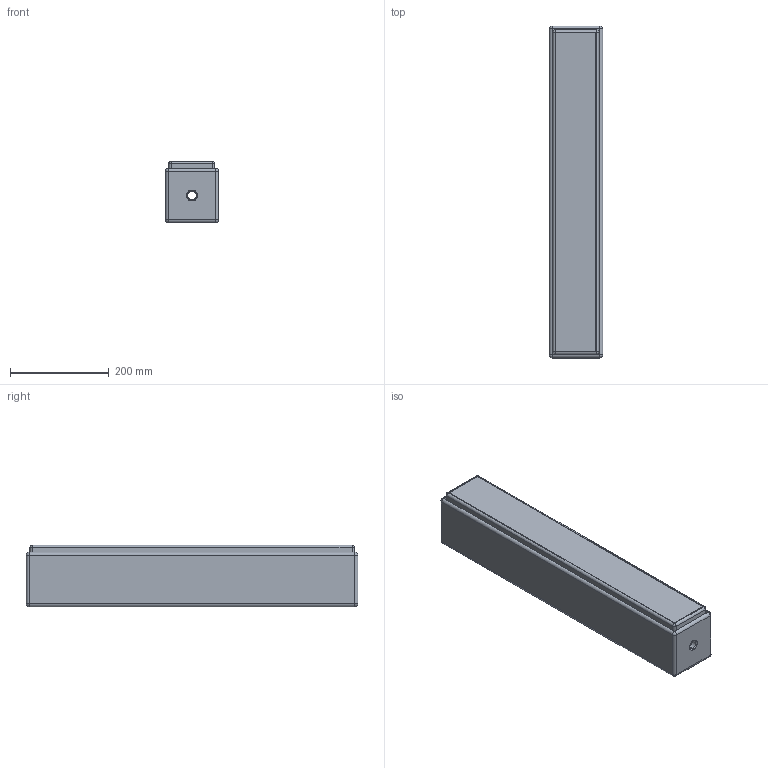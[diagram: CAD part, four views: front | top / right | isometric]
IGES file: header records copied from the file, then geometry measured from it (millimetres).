
Start section: SolidWorks IGES file using analytic representation for surfaces
Global section: file name: C:\Dokumente und Einstellungen\PC_Fabian\Desktop\SW-Konstruktionen Michl2010\L-Serie\L8i\Internet\SEEBURG_L8i.IGS; native system: SolidWorks 2009; preprocessor: SolidWorks 2009; author: PC_Fabian; date: 120926.083852; units: millimetre
Bounding box: 108 x 671 x 124.15 mm (x, y, z)
Surface area: 726399.7 mm2 (no closed solid volume)
Topology: 0 solids, 0 shells, 104 faces, 1060 edges, 1055 vertices
Faces by surface type: revolution 68, bspline 36
